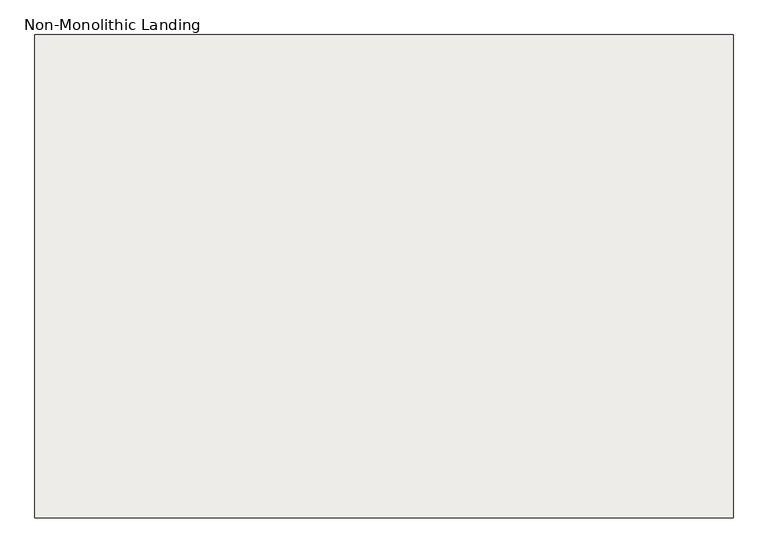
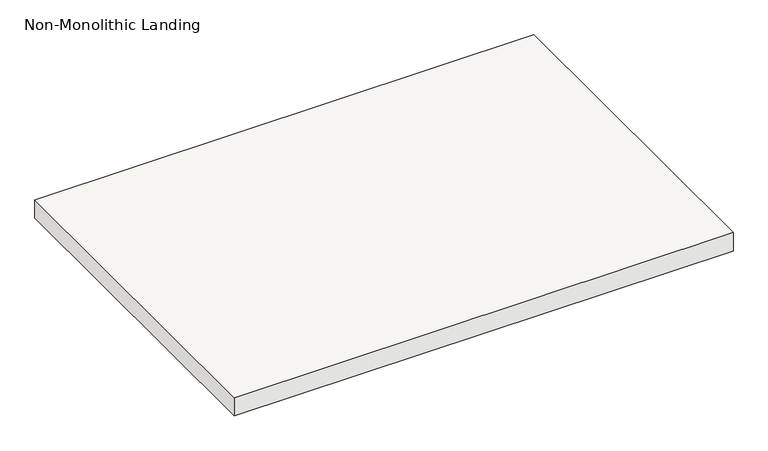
"""IFC4 building model written with IfcOpenShell, lengths in millimetres: slab geometry, Non-Monolithic Landing."""

from ifc_helpers import new_model, si_unit, frame, origin, place, context, project, spatial, polyline, outline, extrude, source, transform, mapped, element, save


def non_monolithic_landing_807e3ce3(model_context):
    return source(origin(), model_context, "Body", "SweptSolid", [
        extrude(outline(polyline([(162982.2620703, 34841.5265585), (164303.0620703, 34841.5265585), (164303.0620703, 33927.1265585), (162982.2620703, 33927.1265585), (162982.2620703, 34841.5265585)])), frame((0.0, 0.0, 2126.3428571), z_axis=(0.0, 0.0, 1.0), x_axis=(1.0, 0.0, 0.0)), (0.0, 0.0, 1.0), 50.8),
    ])


if __name__ == "__main__":
    model = new_model("IFC4")
    model_context = context("Model", 3, world=origin())
    ifc_project = project(units=[si_unit("LENGTHUNIT", "METRE", prefix="MILLI")], contexts=[model_context])
    site = spatial("IfcSite", under=ifc_project)
    building = spatial("IfcBuilding", under=site)
    placement = place(None, origin())
    non_monolithic_landing_shape = non_monolithic_landing_807e3ce3(model_context)
    element("IfcSlab", 1, ObjectType="Non-Monolithic Landing", at=placement, inside=building, context=model_context, shape_type="MappedRepresentation", body=[
        mapped(non_monolithic_landing_shape, transform((0.0, 0.0, 0.0), x_axis=(1.0, 0.0, 0.0), y_axis=(0.0, 1.0, 0.0), z_axis=(0.0, 0.0, 1.0))),
    ])
    save(model, "model.ifc")
